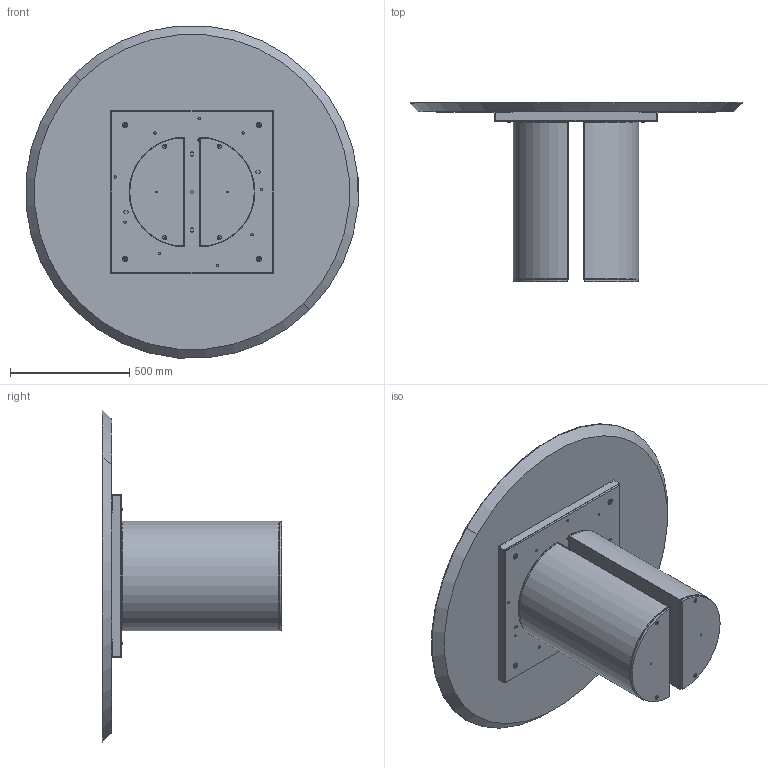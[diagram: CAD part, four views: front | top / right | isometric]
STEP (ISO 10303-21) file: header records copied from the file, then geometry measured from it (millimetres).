
FILE_DESCRIPTION (( 'STEP AP203' ), '1' );
FILE_NAME ('DR06W.STEP', '2024-08-06T13:00:20', ( '' ), ( '' ), 'SwSTEP 2.0', 'SolidWorks 2022', '' );
FILE_SCHEMA (( 'CONFIG_CONTROL_DESIGN' ));
Length unit declared in the file: millimetre
Products named in the file (13): M8xXXmm_M8x55mm; rondella M8_8X24; M8xXXmm_hex_M8X20mm; W1XCMXX-00-Piani Rotondi legno_D.1400; TTAV0801 TELAIO UNIVERSALE TONDO-PIASTRINA; PLA000000ZOC-01-PLAI ZOCCOLO DELLA BASE; COLLO TELAIO UNIVERSALE TTAV0801 CON FERRAMENTA_MTG TOP LEGNO-MARMO-KING; TTAV0801-02-TELAIO UNIVERSALE TONDO-VASSOIO; Assieme Basamento PLAI_Basamento per tavoli; PLA000000BAS-00-PLAI BASE GREZZA; DR06W; M8xXXmm_hex_M8X60mm; TTAV0801-02-TELAIO UNIVERSALE TONDO
Assembly tree (22 placements, depth 4):
  DR06W
    Assieme Basamento PLAI_Basamento per tavoli  x2
      PLA000000BAS-00-PLAI BASE GREZZA
      PLA000000ZOC-01-PLAI ZOCCOLO DELLA BASE
      M8xXXmm_hex_M8X60mm
      M8xXXmm_hex_M8X20mm
    COLLO TELAIO UNIVERSALE TTAV0801 CON FERRAMENTA_MTG TOP LEGNO-MARMO-KING
      TTAV0801-02-TELAIO UNIVERSALE TONDO
        TTAV0801-02-TELAIO UNIVERSALE TONDO-VASSOIO
        TTAV0801 TELAIO UNIVERSALE TONDO-PIASTRINA  x4
      rondella M8_8X24  x4
      M8xXXmm_M8x55mm  x4
    W1XCMXX-00-Piani Rotondi legno_D.1400
Bounding box: 1394.67 x 754 x 1394.67 mm (x, y, z)
Volume: 66462581 mm3; surface area: 8211734.1 mm2
Topology: 28 solids, 28 shells, 864 faces, 2142 edges, 1322 vertices
Faces by surface type: plane 406, cylinder 312, cone 90, torus 56
Entity records: 16513 total; most frequent: DIRECTION 2692, CARTESIAN_POINT 2592, ORIENTED_EDGE 2466, EDGE_CURVE 1233, AXIS2_PLACEMENT_3D 966, VERTEX_POINT 780, LINE 760, VECTOR 760
